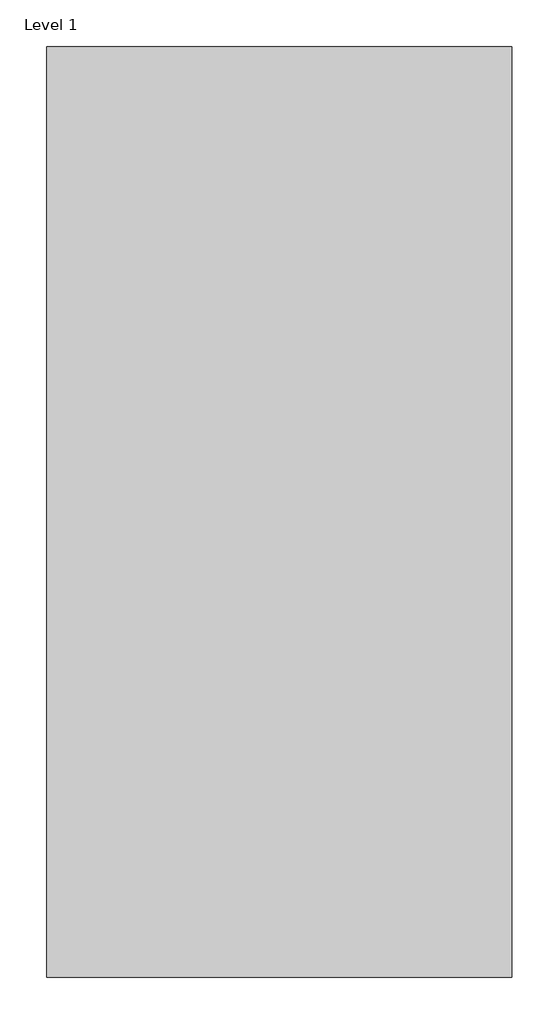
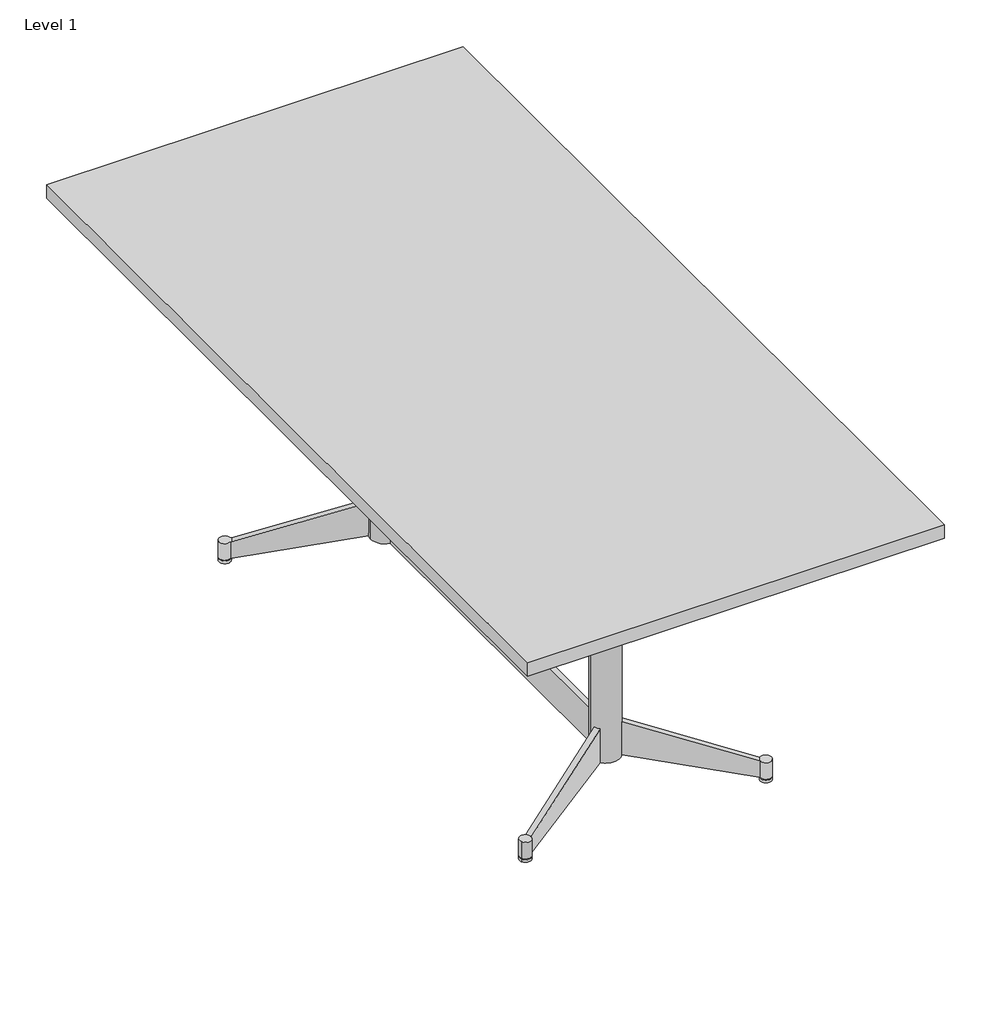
# One storey, incomplete: 1 furniture element.
"""IFC4 building model written with IfcOpenShell, lengths in millimetres."""

from ifc_helpers import new_model, si_unit, origin, place, context, project, spatial, transform, mapped, element, save
from components import furniture_ccc33daa

model = new_model("IFC4")

# Units and contexts
model_context = context("Model", 3, world=origin())
ifc_project = project(units=[si_unit("LENGTHUNIT", "METRE", prefix="MILLI")], contexts=[model_context])

# Site, building, storey
site = spatial("IfcSite", under=ifc_project)
building = spatial("IfcBuilding", under=site)
storey = spatial("IfcBuildingStorey", under=building, Name="Level 1", Elevation=0.0)

# Furniture
placement = place(None, origin())
furniture_shape = furniture_ccc33daa(model_context)
element("IfcFurniture", 1, ObjectType="Geiger_MPTables_DeskRectangular : 36D 72W 28.75H with 1.25H Wood Top and 2 Bases", at=placement, inside=storey, context=model_context, shape_type="MappedRepresentation", body=[
    mapped(furniture_shape, transform((-55.4946301, 7978.2953328, 0.0), x_axis=(0.0, 1.0, 0.0), y_axis=(-1.0, 0.0, 0.0), z_axis=(0.0, 0.0, 1.0))),
])

save(model, "model.ifc")
